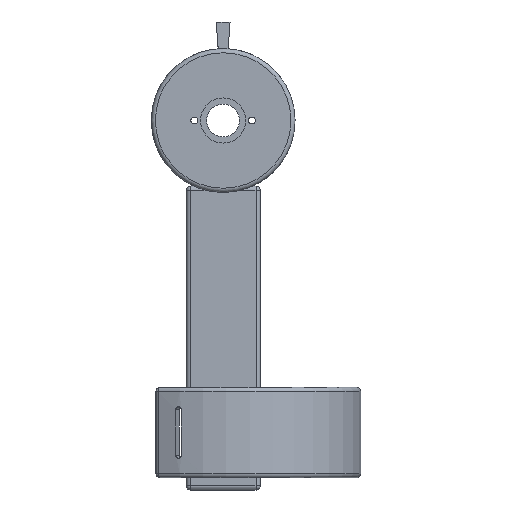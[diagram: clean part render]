
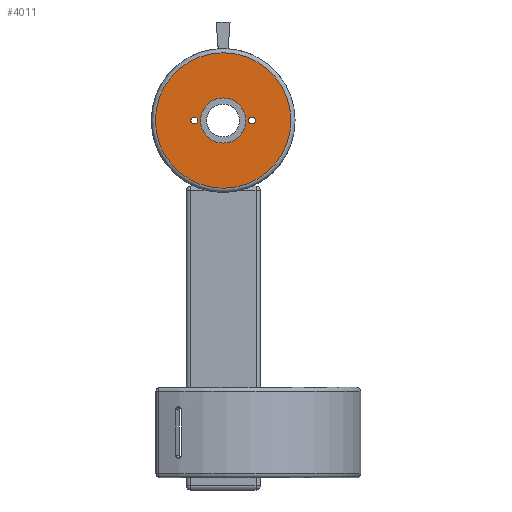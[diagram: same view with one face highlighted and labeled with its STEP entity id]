
A CAD part, left-side view. The second image highlights one B-rep face of the part: STEP entity #4011.
In plain terms, the highlighted planar face has unit normal (-1, 0, 0).
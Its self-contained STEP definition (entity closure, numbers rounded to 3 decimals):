
#66 = TOROIDAL_SURFACE('',#67,33.,2.);
#67 = AXIS2_PLACEMENT_3D('',#68,#69,#70);
#68 = CARTESIAN_POINT('',(78.6,0.,0.));
#69 = DIRECTION('',(-1.,-0.,-0.));
#70 = DIRECTION('',(-0.,0.,1.));
#1962 = VERTEX_POINT('',#1963);
#1963 = CARTESIAN_POINT('',(76.6,0.,33.));
#1985 = EDGE_CURVE('',#1962,#1962,#1986,.T.);
#1986 = SURFACE_CURVE('',#1987,(#1992,#1999),.PCURVE_S1.);
#1987 = CIRCLE('',#1988,33.);
#1988 = AXIS2_PLACEMENT_3D('',#1989,#1990,#1991);
#1989 = CARTESIAN_POINT('',(76.6,0.,0.));
#1990 = DIRECTION('',(1.,0.,0.));
#1991 = DIRECTION('',(-0.,0.,1.));
#1992 = PCURVE('',#66,#1993);
#1993 = DEFINITIONAL_REPRESENTATION('',(#1994),#1998);
#1994 = LINE('',#1995,#1996);
#1995 = CARTESIAN_POINT('',(-0.,1.571));
#1996 = VECTOR('',#1997,1.);
#1997 = DIRECTION('',(-1.,0.));
#1998 = ( GEOMETRIC_REPRESENTATION_CONTEXT(2) 
PARAMETRIC_REPRESENTATION_CONTEXT() REPRESENTATION_CONTEXT('2D SPACE',''
  ) );
#1999 = PCURVE('',#2000,#2005);
#2000 = PLANE('',#2001);
#2001 = AXIS2_PLACEMENT_3D('',#2002,#2003,#2004);
#2002 = CARTESIAN_POINT('',(76.6,0.,0.));
#2003 = DIRECTION('',(1.,0.,0.));
#2004 = DIRECTION('',(-0.,0.,1.));
#2005 = DEFINITIONAL_REPRESENTATION('',(#2006),#2010);
#2006 = CIRCLE('',#2007,33.);
#2007 = AXIS2_PLACEMENT_2D('',#2008,#2009);
#2008 = CARTESIAN_POINT('',(0.,0.));
#2009 = DIRECTION('',(1.,0.));
#2010 = ( GEOMETRIC_REPRESENTATION_CONTEXT(2) 
PARAMETRIC_REPRESENTATION_CONTEXT() REPRESENTATION_CONTEXT('2D SPACE',''
  ) );
#2113 = CYLINDRICAL_SURFACE('',#2114,1.7);
#2114 = AXIS2_PLACEMENT_3D('',#2115,#2116,#2117);
#2115 = CARTESIAN_POINT('',(60.,14.,0.));
#2116 = DIRECTION('',(1.,0.,0.));
#2117 = DIRECTION('',(-0.,0.,1.));
#2175 = CYLINDRICAL_SURFACE('',#2176,1.7);
#2176 = AXIS2_PLACEMENT_3D('',#2177,#2178,#2179);
#2177 = CARTESIAN_POINT('',(60.,-14.,0.));
#2178 = DIRECTION('',(1.,0.,0.));
#2179 = DIRECTION('',(-0.,0.,1.));
#4011 = ADVANCED_FACE('',(#4012,#4015,#4041,#4072),#2000,.F.);
#4012 = FACE_BOUND('',#4013,.F.);
#4013 = EDGE_LOOP('',(#4014));
#4014 = ORIENTED_EDGE('',*,*,#1985,.T.);
#4015 = FACE_BOUND('',#4016,.F.);
#4016 = EDGE_LOOP('',(#4017));
#4017 = ORIENTED_EDGE('',*,*,#4018,.F.);
#4018 = EDGE_CURVE('',#4019,#4019,#4021,.T.);
#4019 = VERTEX_POINT('',#4020);
#4020 = CARTESIAN_POINT('',(76.6,14.,1.7));
#4021 = SURFACE_CURVE('',#4022,(#4027,#4034),.PCURVE_S1.);
#4022 = CIRCLE('',#4023,1.7);
#4023 = AXIS2_PLACEMENT_3D('',#4024,#4025,#4026);
#4024 = CARTESIAN_POINT('',(76.6,14.,0.));
#4025 = DIRECTION('',(1.,0.,0.));
#4026 = DIRECTION('',(-0.,0.,1.));
#4027 = PCURVE('',#2000,#4028);
#4028 = DEFINITIONAL_REPRESENTATION('',(#4029),#4033);
#4029 = CIRCLE('',#4030,1.7);
#4030 = AXIS2_PLACEMENT_2D('',#4031,#4032);
#4031 = CARTESIAN_POINT('',(0.,-14.));
#4032 = DIRECTION('',(1.,0.));
#4033 = ( GEOMETRIC_REPRESENTATION_CONTEXT(2) 
PARAMETRIC_REPRESENTATION_CONTEXT() REPRESENTATION_CONTEXT('2D SPACE',''
  ) );
#4034 = PCURVE('',#2113,#4035);
#4035 = DEFINITIONAL_REPRESENTATION('',(#4036),#4040);
#4036 = LINE('',#4037,#4038);
#4037 = CARTESIAN_POINT('',(0.,16.6));
#4038 = VECTOR('',#4039,1.);
#4039 = DIRECTION('',(1.,0.));
#4040 = ( GEOMETRIC_REPRESENTATION_CONTEXT(2) 
PARAMETRIC_REPRESENTATION_CONTEXT() REPRESENTATION_CONTEXT('2D SPACE',''
  ) );
#4041 = FACE_BOUND('',#4042,.F.);
#4042 = EDGE_LOOP('',(#4043));
#4043 = ORIENTED_EDGE('',*,*,#4044,.F.);
#4044 = EDGE_CURVE('',#4045,#4045,#4047,.T.);
#4045 = VERTEX_POINT('',#4046);
#4046 = CARTESIAN_POINT('',(76.6,0.,11.013));
#4047 = SURFACE_CURVE('',#4048,(#4053,#4060),.PCURVE_S1.);
#4048 = CIRCLE('',#4049,11.013);
#4049 = AXIS2_PLACEMENT_3D('',#4050,#4051,#4052);
#4050 = CARTESIAN_POINT('',(76.6,0.,0.));
#4051 = DIRECTION('',(1.,0.,0.));
#4052 = DIRECTION('',(-0.,0.,1.));
#4053 = PCURVE('',#2000,#4054);
#4054 = DEFINITIONAL_REPRESENTATION('',(#4055),#4059);
#4055 = CIRCLE('',#4056,11.013);
#4056 = AXIS2_PLACEMENT_2D('',#4057,#4058);
#4057 = CARTESIAN_POINT('',(0.,0.));
#4058 = DIRECTION('',(1.,0.));
#4059 = ( GEOMETRIC_REPRESENTATION_CONTEXT(2) 
PARAMETRIC_REPRESENTATION_CONTEXT() REPRESENTATION_CONTEXT('2D SPACE',''
  ) );
#4060 = PCURVE('',#4061,#4066);
#4061 = CYLINDRICAL_SURFACE('',#4062,11.013);
#4062 = AXIS2_PLACEMENT_3D('',#4063,#4064,#4065);
#4063 = CARTESIAN_POINT('',(76.6,0.,0.));
#4064 = DIRECTION('',(1.,0.,0.));
#4065 = DIRECTION('',(-0.,0.,1.));
#4066 = DEFINITIONAL_REPRESENTATION('',(#4067),#4071);
#4067 = LINE('',#4068,#4069);
#4068 = CARTESIAN_POINT('',(0.,0.));
#4069 = VECTOR('',#4070,1.);
#4070 = DIRECTION('',(1.,0.));
#4071 = ( GEOMETRIC_REPRESENTATION_CONTEXT(2) 
PARAMETRIC_REPRESENTATION_CONTEXT() REPRESENTATION_CONTEXT('2D SPACE',''
  ) );
#4072 = FACE_BOUND('',#4073,.F.);
#4073 = EDGE_LOOP('',(#4074));
#4074 = ORIENTED_EDGE('',*,*,#4075,.F.);
#4075 = EDGE_CURVE('',#4076,#4076,#4078,.T.);
#4076 = VERTEX_POINT('',#4077);
#4077 = CARTESIAN_POINT('',(76.6,-14.,1.7));
#4078 = SURFACE_CURVE('',#4079,(#4084,#4091),.PCURVE_S1.);
#4079 = CIRCLE('',#4080,1.7);
#4080 = AXIS2_PLACEMENT_3D('',#4081,#4082,#4083);
#4081 = CARTESIAN_POINT('',(76.6,-14.,0.));
#4082 = DIRECTION('',(1.,0.,0.));
#4083 = DIRECTION('',(-0.,0.,1.));
#4084 = PCURVE('',#2000,#4085);
#4085 = DEFINITIONAL_REPRESENTATION('',(#4086),#4090);
#4086 = CIRCLE('',#4087,1.7);
#4087 = AXIS2_PLACEMENT_2D('',#4088,#4089);
#4088 = CARTESIAN_POINT('',(0.,14.));
#4089 = DIRECTION('',(1.,0.));
#4090 = ( GEOMETRIC_REPRESENTATION_CONTEXT(2) 
PARAMETRIC_REPRESENTATION_CONTEXT() REPRESENTATION_CONTEXT('2D SPACE',''
  ) );
#4091 = PCURVE('',#2175,#4092);
#4092 = DEFINITIONAL_REPRESENTATION('',(#4093),#4097);
#4093 = LINE('',#4094,#4095);
#4094 = CARTESIAN_POINT('',(0.,16.6));
#4095 = VECTOR('',#4096,1.);
#4096 = DIRECTION('',(1.,0.));
#4097 = ( GEOMETRIC_REPRESENTATION_CONTEXT(2) 
PARAMETRIC_REPRESENTATION_CONTEXT() REPRESENTATION_CONTEXT('2D SPACE',''
  ) );
